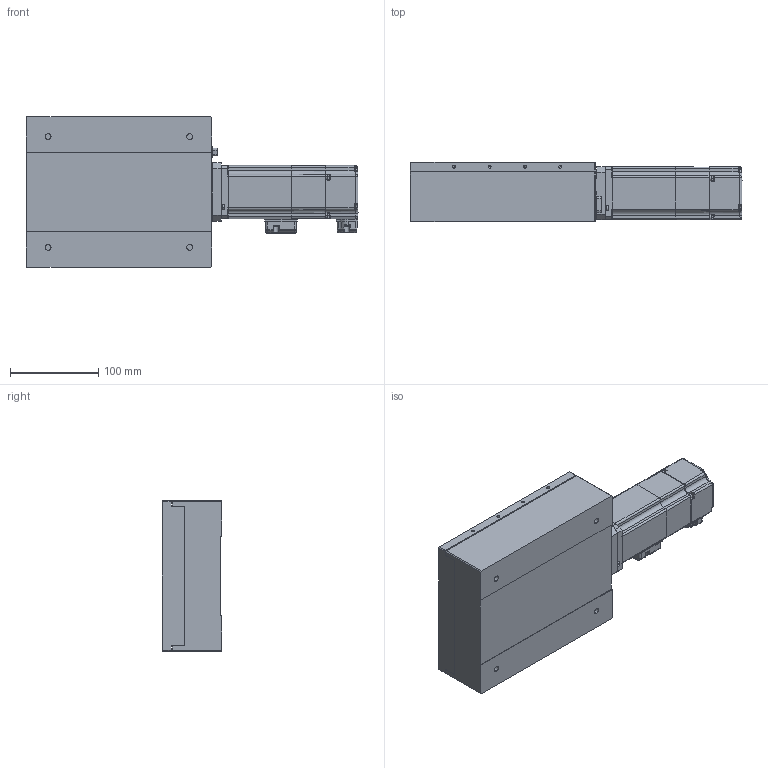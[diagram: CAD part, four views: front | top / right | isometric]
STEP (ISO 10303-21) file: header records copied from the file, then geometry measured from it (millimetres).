
FILE_DESCRIPTION (( 'STEP AP203' ), '1' );
FILE_NAME ('NPS-AC-40B-05x.STEP', '2019-09-12T01:31:46', ( '' ), ( '' ), 'SwSTEP 2.0', 'SolidWorks 2015', '' );
FILE_SCHEMA (( 'CONFIG_CONTROL_DESIGN' ));
Length unit declared in the file: millimetre
Products named in the file (3): NPS-AC-40B-05x_移動部; NPS-AC-40B-05x_固定部; NPS-AC-40B-05x
Assembly tree (2 placements, depth 2):
  NPS-AC-40B-05x
    NPS-AC-40B-05x_移動部
    NPS-AC-40B-05x_固定部
Bounding box: 375.5 x 67 x 170 mm (x, y, z)
Volume: 790981.2 mm3; surface area: 282664 mm2
Topology: 1 solids, 32 shells, 993 faces, 2847 edges, 1889 vertices
Faces by surface type: plane 379, cylinder 367, bspline 159, cone 59, sphere 18, torus 11
Entity records: 42198 total; most frequent: CARTESIAN_POINT 17624, ORIENTED_EDGE 4910, DIRECTION 4768, EDGE_CURVE 2789, VERTEX_POINT 1871, AXIS2_PLACEMENT_3D 1681, VECTOR 1406, LINE 1406
